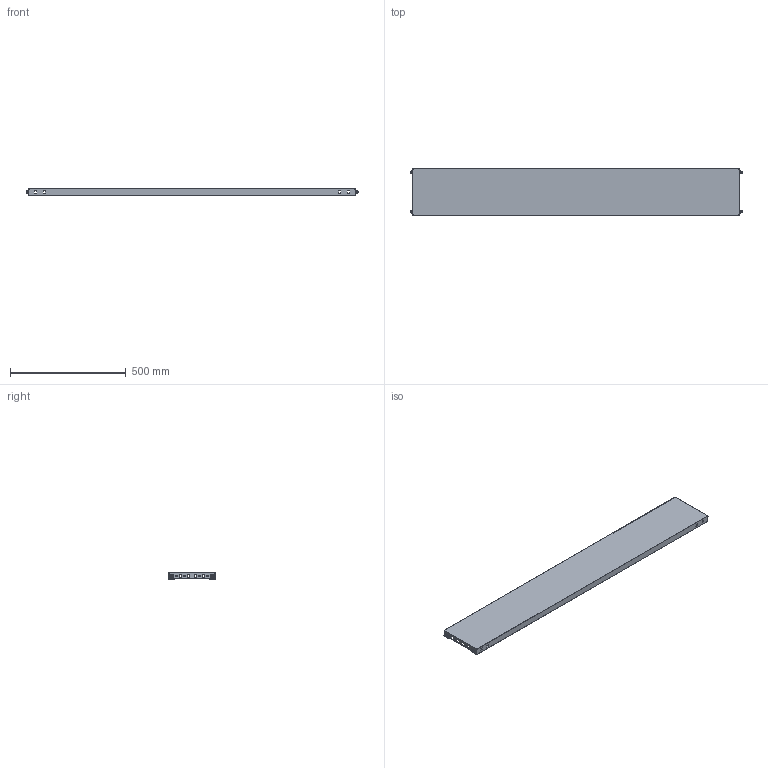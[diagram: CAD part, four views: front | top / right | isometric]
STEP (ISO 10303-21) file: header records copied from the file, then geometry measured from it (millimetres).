
FILE_DESCRIPTION(('Open CASCADE Model'),'2;1');
FILE_NAME('Open CASCADE Shape Model','2025-02-27T11:01:21',('Author'),( 'Open CASCADE'),'Open CASCADE STEP processor 7.8','Open CASCADE 7.8' ,'Unknown');
FILE_SCHEMA(('AUTOMOTIVE_DESIGN { 1 0 10303 214 1 1 1 1 }'));
Length unit declared in the file: millimetre
Products named in the file (5): Compound1; Solid1; Solid2; Solid3; Solid4
Assembly tree (13 placements, depth 2):
  Compound1
    Solid1
    Solid2  x4
    Solid3  x4
    Solid4  x4
Bounding box: 1436.2 x 200 x 30 mm (x, y, z)
Volume: 645077 mm3; surface area: 872041.9 mm2
Topology: 13 solids, 13 shells, 888 faces, 2768 edges, 1902 vertices
Faces by surface type: cylinder 442, plane 422, cone 16, torus 8
Full cylindrical faces by diameter (mm): 4.2 x112, 4.917 x4, 5.5 x8, 6 x4, 6.4 x4, 6.5 x114, 6.6 x4, 10 x4, 12 x4
Entity records: 19954 total; most frequent: CARTESIAN_POINT 3876, ORIENTED_EDGE 3356, DIRECTION 3192, EDGE_CURVE 1678, AXIS2_PLACEMENT_3D 1303, VERTEX_POINT 1191, FACE_BOUND 1011, EDGE_LOOP 1011
